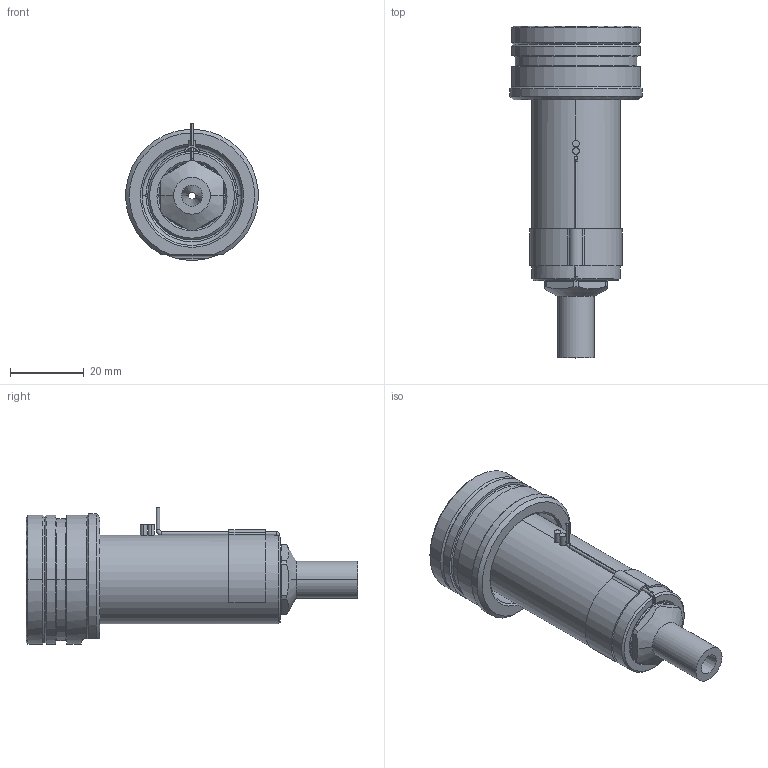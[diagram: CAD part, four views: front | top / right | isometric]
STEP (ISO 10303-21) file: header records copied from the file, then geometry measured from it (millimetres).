
FILE_DESCRIPTION((''),'2;1');
FILE_NAME('EO06_SG_ESG_060_SW','2024-02-19T12:17:16',('sundharh'),(''),'CREO PARAMETRIC BY PTC INC, 2023154','CREO PARAMETRIC BY PTC INC, 2023154','');
FILE_SCHEMA(('CONFIG_CONTROL_DESIGN'));
Length unit declared in the file: millimetre
Products named in the file (1): EO06_SG_ESG_060_SW
Bounding box: 35.93 x 90 x 37 mm (x, y, z)
Volume: 39494.7 mm3; surface area: 12981.3 mm2
Topology: 2 solids, 2 shells, 169 faces, 429 edges, 260 vertices
Faces by surface type: cylinder 68, plane 41, cone 30, torus 21, bspline 6, sphere 3
Entity records: 5711 total; most frequent: CARTESIAN_POINT 1584, DIRECTION 908, ORIENTED_EDGE 842, EDGE_CURVE 421, AXIS2_PLACEMENT_3D 379, VERTEX_POINT 260, CIRCLE 216, EDGE_LOOP 183
